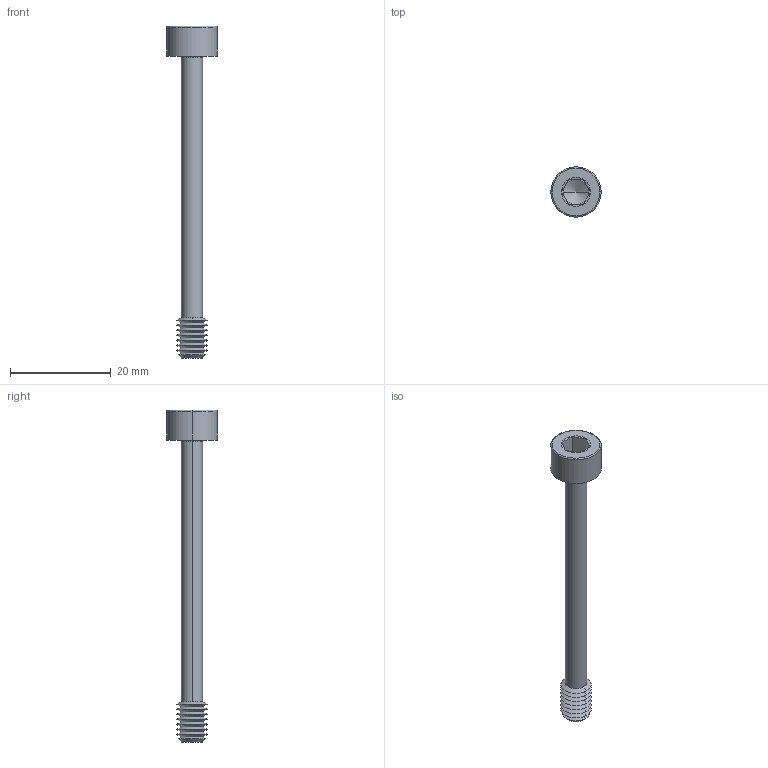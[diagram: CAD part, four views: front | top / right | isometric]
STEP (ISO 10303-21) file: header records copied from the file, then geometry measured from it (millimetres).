
FILE_DESCRIPTION (( 'STEP AP203' ), '1' );
FILE_NAME ('P0154.060-060-BL.step', '2024-06-17T11:30:17', ( '' ), ( '' ), 'SwSTEP 2.0', 'SolidWorks 2019', '' );
FILE_SCHEMA (( 'CONFIG_CONTROL_DESIGN' ));
Length unit declared in the file: millimetre
Products named in the file (1): P0154.060-060-BL
Bounding box: 10 x 10 x 66 mm (x, y, z)
Volume: 1238.9 mm3; surface area: 1367.3 mm2
Topology: 1 solids, 1 shells, 63 faces, 128 edges, 67 vertices
Faces by surface type: cone 40, plane 15, torus 4, cylinder 4
Entity records: 1687 total; most frequent: DIRECTION 312, CARTESIAN_POINT 283, ORIENTED_EDGE 252, AXIS2_PLACEMENT_3D 128, EDGE_CURVE 126, VERTEX_POINT 67, EDGE_LOOP 65, CIRCLE 64
